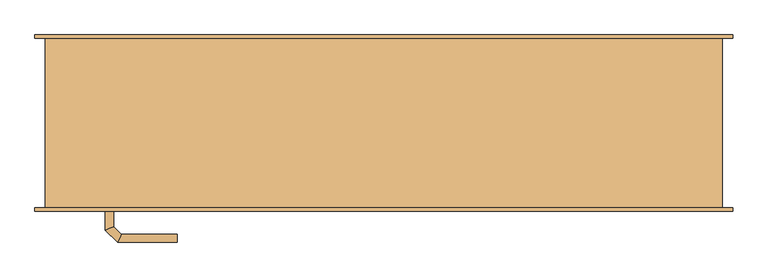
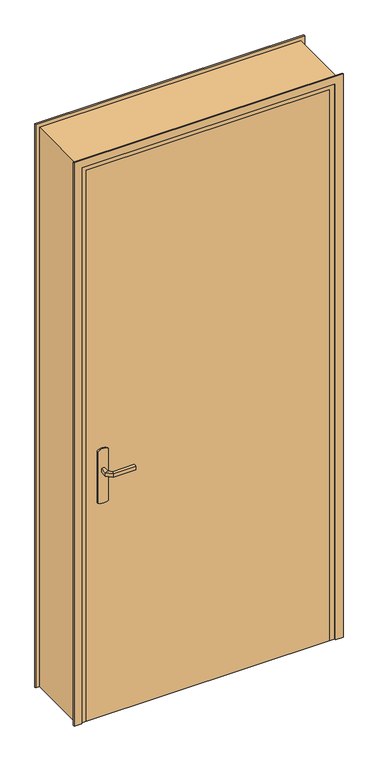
"""IFC4 building model written with IfcOpenShell, lengths in millimetres: door geometry, @_Int. Simple : @_PP (0.93m x 2.25)."""

from ifc_helpers import new_model, si_unit, point, frame, frame_2d, origin, origin_with_axes, place, context, project, spatial, polyline, circle_curve, ellipse_curve, trimmed, segment, composite_curve, outline, extrude, faceted_brep, source, transform, mapped, element, save
from ifc_brep_helpers import plane_surface, cylinder_surface, advanced_brep


def door_8299daf2(model_context):
    return source(origin(), model_context, "Body", "SolidModel", [
        extrude(outline(composite_curve([segment(trimmed(circle_curve(frame_2d((904.6410162, -440.0)), 40.0), [point((870.0, -460.0))], [point((870.0, -420.0))], False, "CARTESIAN"), True, "CONTINUOUS"), segment(polyline([(870.0, -420.0), (1080.0, -420.0)]), True, "CONTINUOUS"), segment(trimmed(circle_curve(frame_2d((1045.3589838, -440.0)), 40.0), [point((1080.0, -420.0))], [point((1080.0, -460.0))], False, "CARTESIAN"), True, "CONTINUOUS"), segment(polyline([(1080.0, -460.0), (870.0, -460.0)]), True, "CONTINUOUS")], self_intersect=False)), frame((0.0, -130.0, 0.0), z_axis=(0.0, 1.0, 0.0), x_axis=(0.0, 0.0, 1.0)), (0.0, 0.0, 1.0), 5.0),
        extrude(outline(composite_curve([segment(trimmed(circle_curve(frame_2d((1045.3589838, -440.0)), 40.0), [point((1080.0, -420.0))], [point((1080.0, -460.0))], False, "CARTESIAN"), True, "CONTINUOUS"), segment(polyline([(1080.0, -460.0), (870.0, -460.0)]), True, "CONTINUOUS"), segment(trimmed(circle_curve(frame_2d((904.6410162, -440.0)), 40.0), [point((870.0, -460.0))], [point((870.0, -420.0))], False, "CARTESIAN"), True, "CONTINUOUS"), segment(polyline([(870.0, -420.0), (1080.0, -420.0)]), True, "CONTINUOUS")], self_intersect=False)), frame((0.0, -85.0, 0.0), z_axis=(0.0, 1.0, 0.0), x_axis=(0.0, 0.0, 1.0)), (0.0, 0.0, 1.0), 5.0),
        advanced_brep(
        [(-446.0, -130.0, 1007.0), (-434.0, -130.0, 1007.0), (-434.0, -130.0, 993.0), (-446.0, -130.0, 993.0), (-446.0, -157.6509507, 1007.0), (-434.0, -152.680388, 1007.0), (-434.0, -152.680388, 993.0), (-446.0, -157.6509507, 993.0), (-427.62279, -176.0281607, 1007.0), (-422.6522273, -164.0281607, 1007.0), (-422.6522273, -164.0281607, 993.0), (-427.62279, -176.0281607, 993.0), (-339.9813594, -176.0281607, 1007.0), (-339.9813594, -176.0281607, 993.0), (-339.9813594, -164.0281607, 993.0), (-339.9813594, -164.0281607, 1007.0)],
        [
            (0, 1, circle_curve(frame((-440.0, -130.0, 986.9542278), z_axis=(0.0, 1.0, 0.0), x_axis=(1.0, 0.0, 0.0)), 20.9244589)),
            (1, 2),
            (2, 3, circle_curve(frame((-440.0, -130.0, 1013.0457722), z_axis=(0.0, 1.0, 0.0), x_axis=(1.0, 0.0, 0.0)), 20.9244589)),
            (3, 0),
            (0, 4),
            (4, 5, ellipse_curve(frame((-440.0, -155.1656693, 986.9542278), z_axis=(-0.3826834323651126, 0.9238795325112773, 0.0), x_axis=(0.9238795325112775, 0.38268343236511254, 0.0)), 22.6484711, 20.9244589)),
            (5, 1),
            (5, 6),
            (6, 2),
            (6, 7, ellipse_curve(frame((-440.0, -155.1656693, 1013.0457722), z_axis=(-0.3826834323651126, 0.9238795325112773, 0.0), x_axis=(0.9238795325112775, 0.38268343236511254, 0.0)), 22.6484711, 20.9244589)),
            (7, 3),
            (7, 4),
            (4, 8),
            (8, 9, ellipse_curve(frame((-425.1375086, -170.0281607, 986.9542278), z_axis=(-0.9238795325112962, 0.38268343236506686, 0.0), x_axis=(0.3826834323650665, 0.9238795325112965, 0.0)), 22.6484711, 20.9244589)),
            (9, 5),
            (9, 10),
            (10, 6),
            (10, 11, ellipse_curve(frame((-425.1375086, -170.0281607, 1013.0457722), z_axis=(-0.9238795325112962, 0.38268343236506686, 0.0), x_axis=(0.3826834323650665, 0.9238795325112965, 0.0)), 22.6484711, 20.9244589)),
            (11, 7),
            (11, 8),
            (12, 13),
            (13, 14, circle_curve(frame((-339.9813594, -170.0281607, 1013.0457722), z_axis=(1.0, 0.0, 0.0), x_axis=(0.0, 1.0, 0.0)), 20.9244589)),
            (14, 15),
            (15, 12, circle_curve(frame((-339.9813594, -170.0281607, 986.9542278), z_axis=(1.0, 0.0, 0.0), x_axis=(0.0, 1.0, 0.0)), 20.9244589)),
            (8, 12),
            (15, 9),
            (14, 10),
            (13, 11),
        ],
        [
            plane_surface(frame((-449.2195445, -130.0, 1000.0), z_axis=(0.0, 1.0, 0.0), x_axis=(0.0, 0.0, -1.0))),
            cylinder_surface(frame((-440.0, -130.0, 986.9542278), z_axis=(0.0, 1.0, 0.0), x_axis=(1.0, 0.0, 0.0)), 20.9244589),
            plane_surface(frame((-434.0, -130.0, 1007.0), z_axis=(1.0, 0.0, 0.0), x_axis=(0.0, -1.0, 0.0))),
            cylinder_surface(frame((-440.0, -130.0, 1013.0457722), z_axis=(0.0, 1.0, 0.0), x_axis=(1.0, 0.0, 0.0)), 20.9244589),
            plane_surface(frame((-446.0, -130.0, 993.0), z_axis=(-1.0, 0.0, 0.0), x_axis=(0.0, -1.0, 0.0))),
            cylinder_surface(frame((-440.0, -155.1656693, 986.9542278), z_axis=(-0.7071067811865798, 0.7071067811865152, 0.0), x_axis=(0.7071067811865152, 0.7071067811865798, 0.0)), 20.9244589),
            plane_surface(frame((-434.0, -152.680388, 1007.0), z_axis=(0.7071067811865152, 0.7071067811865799, 0.0), x_axis=(0.7071067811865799, -0.7071067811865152, 0.0))),
            cylinder_surface(frame((-440.0, -155.1656693, 1013.0457722), z_axis=(-0.7071067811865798, 0.7071067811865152, 0.0), x_axis=(0.7071067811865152, 0.7071067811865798, 0.0)), 20.9244589),
            plane_surface(frame((-446.0, -157.6509507, 993.0), z_axis=(-0.7071067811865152, -0.7071067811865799, 0.0), x_axis=(0.7071067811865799, -0.7071067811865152, 0.0))),
            plane_surface(frame((-339.9813594, -170.0281607, 990.7804555), z_axis=(1.0, 0.0, 0.0), x_axis=(0.0, 1.0, 0.0))),
            cylinder_surface(frame((-425.1375086, -170.0281607, 986.9542278), z_axis=(-1.0, 0.0, 0.0), x_axis=(0.0, 1.0, 0.0)), 20.9244589),
            plane_surface(frame((-422.6522273, -164.0281607, 1007.0), z_axis=(0.0, 1.0, 0.0), x_axis=(1.0, 0.0, 0.0))),
            cylinder_surface(frame((-425.1375086, -170.0281607, 1013.0457722), z_axis=(-1.0, 0.0, 0.0), x_axis=(0.0, 1.0, 0.0)), 20.9244589),
            plane_surface(frame((-427.62279, -176.0281607, 993.0), z_axis=(0.0, -1.0, 0.0), x_axis=(1.0, 0.0, 0.0))),
        ],
        [
            (0, [[1, 2, 3, 4]]),
            (1, [[-1, 5, 6, 7]]),
            (2, [[-2, -7, 8, 9]]),
            (3, [[-3, -9, 10, 11]]),
            (4, [[-4, -11, 12, -5]]),
            (5, [[-6, 13, 14, 15]]),
            (6, [[-8, -15, 16, 17]]),
            (7, [[-10, -17, 18, 19]]),
            (8, [[-12, -19, 20, -13]]),
            (9, [[21, 22, 23, 24]]),
            (10, [[-14, 25, -24, 26]]),
            (11, [[-16, -26, -23, 27]]),
            (12, [[-18, -27, -22, 28]]),
            (13, [[-20, -28, -21, -25]]),
        ],
    ),
        advanced_brep(
        [(-434.0, -80.0, 993.0), (-434.0, -80.0, 1007.0), (-446.0, -80.0, 1007.0), (-446.0, -80.0, 993.0), (-434.0, -57.5147955, 993.0), (-434.0, -57.5147955, 1007.0), (-446.0, -52.5442327, 1007.0), (-446.0, -52.5442327, 993.0), (-422.5147186, -46.0295141, 993.0), (-422.5147186, -46.0295141, 1007.0), (-427.4852814, -34.0295141, 1007.0), (-427.4852814, -34.0295141, 993.0), (-339.9542163, -46.0295141, 993.0), (-339.9542163, -34.0295141, 993.0), (-339.9542163, -34.0295141, 1007.0), (-339.9542163, -46.0295141, 1007.0)],
        [
            (0, 1),
            (1, 2, circle_curve(frame((-440.0, -80.0, 986.9542278), z_axis=(0.0, -1.0, 0.0), x_axis=(-1.0, 0.0, 0.0)), 20.9244589)),
            (2, 3),
            (3, 0, circle_curve(frame((-440.0, -80.0, 1013.0457722), z_axis=(0.0, -1.0, 0.0), x_axis=(-1.0, 0.0, 0.0)), 20.9244589)),
            (0, 4),
            (4, 5),
            (5, 1),
            (5, 6, ellipse_curve(frame((-440.0, -55.0295141, 986.9542278), z_axis=(-0.3826834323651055, -0.9238795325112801, 0.0), x_axis=(0.9238795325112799, -0.3826834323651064, 0.0)), 22.6484711, 20.9244589)),
            (6, 2),
            (6, 7),
            (7, 3),
            (7, 4, ellipse_curve(frame((-440.0, -55.0295141, 1013.0457722), z_axis=(-0.3826834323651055, -0.9238795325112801, 0.0), x_axis=(0.9238795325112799, -0.3826834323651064, 0.0)), 22.6484711, 20.9244589)),
            (4, 8),
            (8, 9),
            (9, 5),
            (9, 10, ellipse_curve(frame((-425.0, -40.0295141, 986.9542278), z_axis=(-0.9238795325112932, -0.382683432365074, 0.0), x_axis=(0.3826834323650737, -0.9238795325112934, 0.0)), 22.6484711, 20.9244589)),
            (10, 6),
            (10, 11),
            (11, 7),
            (11, 8, ellipse_curve(frame((-425.0, -40.0295141, 1013.0457722), z_axis=(-0.9238795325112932, -0.382683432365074, 0.0), x_axis=(0.3826834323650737, -0.9238795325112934, 0.0)), 22.6484711, 20.9244589)),
            (12, 13, circle_curve(frame((-339.9542163, -40.0295141, 1013.0457722), z_axis=(1.0, 0.0, 0.0), x_axis=(0.0, 1.0, 0.0)), 20.9244589)),
            (13, 14),
            (14, 15, circle_curve(frame((-339.9542163, -40.0295141, 986.9542278), z_axis=(1.0, 0.0, 0.0), x_axis=(0.0, 1.0, 0.0)), 20.9244589)),
            (15, 12),
            (8, 12),
            (15, 9),
            (14, 10),
            (13, 11),
        ],
        [
            plane_surface(frame((-449.2195445, -80.0, 1000.0), z_axis=(0.0, -1.0, 0.0), x_axis=(0.0, 0.0, 1.0))),
            plane_surface(frame((-434.0, -80.0, 993.0), z_axis=(1.0, 0.0, 0.0), x_axis=(0.0, 1.0, 0.0))),
            cylinder_surface(frame((-440.0, -80.0, 986.9542278), z_axis=(0.0, -1.0, 0.0), x_axis=(-1.0, 0.0, 0.0)), 20.9244589),
            plane_surface(frame((-446.0, -80.0, 1007.0), z_axis=(-1.0, 0.0, 0.0), x_axis=(0.0, 1.0, 0.0))),
            cylinder_surface(frame((-440.0, -80.0, 1013.0457722), z_axis=(0.0, -1.0, 0.0), x_axis=(-1.0, 0.0, 0.0)), 20.9244589),
            plane_surface(frame((-434.0, -57.5147955, 993.0), z_axis=(0.7071067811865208, -0.7071067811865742, 0.0), x_axis=(0.7071067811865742, 0.7071067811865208, 0.0))),
            cylinder_surface(frame((-440.0, -55.0295141, 986.9542278), z_axis=(-0.7071067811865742, -0.7071067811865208, 0.0), x_axis=(-0.7071067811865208, 0.7071067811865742, 0.0)), 20.9244589),
            plane_surface(frame((-446.0, -52.5442327, 1007.0), z_axis=(-0.7071067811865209, 0.7071067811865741, 0.0), x_axis=(0.7071067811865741, 0.7071067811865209, 0.0))),
            cylinder_surface(frame((-440.0, -55.0295141, 1013.0457722), z_axis=(-0.7071067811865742, -0.7071067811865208, 0.0), x_axis=(-0.7071067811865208, 0.7071067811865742, 0.0)), 20.9244589),
            plane_surface(frame((-339.9542163, -40.0295141, 990.7804555), z_axis=(1.0, 0.0, 0.0), x_axis=(0.0, 1.0, 0.0))),
            plane_surface(frame((-422.5147186, -46.0295141, 993.0), z_axis=(0.0, -1.0, 0.0), x_axis=(1.0, 0.0, 0.0))),
            cylinder_surface(frame((-425.0, -40.0295141, 986.9542278), z_axis=(-1.0, 0.0, 0.0), x_axis=(0.0, 1.0, 0.0)), 20.9244589),
            plane_surface(frame((-427.4852814, -34.0295141, 1007.0), z_axis=(0.0, 1.0, 0.0), x_axis=(1.0, 0.0, 0.0))),
            cylinder_surface(frame((-425.0, -40.0295141, 1013.0457722), z_axis=(-1.0, 0.0, 0.0), x_axis=(0.0, 1.0, 0.0)), 20.9244589),
        ],
        [
            (0, [[1, 2, 3, 4]]),
            (1, [[-1, 5, 6, 7]]),
            (2, [[-2, -7, 8, 9]]),
            (3, [[-3, -9, 10, 11]]),
            (4, [[-4, -11, 12, -5]]),
            (5, [[-6, 13, 14, 15]]),
            (6, [[-8, -15, 16, 17]]),
            (7, [[-10, -17, 18, 19]]),
            (8, [[-12, -19, 20, -13]]),
            (9, [[21, 22, 23, 24]]),
            (10, [[-14, 25, -24, 26]]),
            (11, [[-16, -26, -23, 27]]),
            (12, [[-18, -27, -22, 28]]),
            (13, [[-20, -28, -21, -25]]),
        ],
    ),
        extrude(outline(polyline([(-500.0, -85.0), (430.0, -85.0), (430.0, -125.0), (-500.0, -125.0), (-500.0, -85.0)])), origin_with_axes(), (0.0, 0.0, 1.0), 2230.0),
        faceted_brep([(-535.0, -125.0, 0.0), (-535.0, 125.0, 0.0), (-485.0, 125.0, 0.0), (-485.0, -85.0, 0.0), (-500.0, -85.0, 0.0), (-500.0, -125.0, 0.0), (-535.0, -125.0, 2265.0), (-535.0, 125.0, 2265.0), (465.0, 125.0, 2265.0), (465.0, 125.0, 0.0), (415.0, 125.0, 0.0), (415.0, 125.0, 2215.0), (-485.0, 125.0, 2215.0), (-485.0, -85.0, 2215.0), (415.0, -85.0, 2215.0), (415.0, -85.0, 0.0), (430.0, -85.0, 0.0), (430.0, -85.0, 2230.0), (-500.0, -85.0, 2230.0), (-500.0, -125.0, 2230.0), (430.0, -125.0, 2230.0), (430.0, -125.0, 0.0), (465.0, -125.0, 0.0), (465.0, -125.0, 2265.0)], [[[0, 1, 2, 3, 4, 5]], [[1, 0, 6, 7]], [[2, 1, 7, 8, 9, 10, 11, 12]], [[3, 2, 12, 13]], [[4, 3, 13, 14, 15, 16, 17, 18]], [[5, 4, 18, 19]], [[0, 5, 19, 20, 21, 22, 23, 6]], [[8, 23, 22, 9]], [[22, 21, 16, 15, 10, 9]], [[14, 11, 10, 15]], [[20, 17, 16, 21]], [[7, 6, 23, 8]], [[13, 12, 11, 14]], [[19, 18, 17, 20]]]),
        extrude(outline(polyline([(0.0, -550.0), (0.0, -520.0), (2250.0, -520.0), (2250.0, 450.0), (0.0, 450.0), (0.0, 480.0), (2280.0, 480.0), (2280.0, -550.0), (0.0, -550.0)])), frame((0.0, -130.0, 0.0), z_axis=(0.0, 1.0, 0.0), x_axis=(0.0, 0.0, 1.0)), (0.0, 0.0, 1.0), 5.0),
        extrude(outline(polyline([(0.0, -550.0), (0.0, -520.0), (2250.0, -520.0), (2250.0, 450.0), (0.0, 450.0), (0.0, 480.0), (2280.0, 480.0), (2280.0, -550.0), (0.0, -550.0)])), frame((0.0, 125.0, 0.0), z_axis=(0.0, 1.0, 0.0), x_axis=(0.0, 0.0, 1.0)), (0.0, 0.0, 1.0), 5.0),
    ])


if __name__ == "__main__":
    model = new_model("IFC4")
    model_context = context("Model", 3, world=origin())
    ifc_project = project(units=[si_unit("LENGTHUNIT", "METRE", prefix="MILLI")], contexts=[model_context])
    site = spatial("IfcSite", under=ifc_project)
    building = spatial("IfcBuilding", under=site)
    placement = place(None, origin())
    door_shape = door_8299daf2(model_context)
    element("IfcDoor", 1, ObjectType="@_Int. Simple : @_PP (0.93m x 2.25)", at=placement, inside=building, context=model_context, shape_type="MappedRepresentation", body=[
        mapped(door_shape, transform((0.0, 0.0, 0.0), x_axis=(1.0, 0.0, 0.0), y_axis=(0.0, 1.0, 0.0), z_axis=(0.0, 0.0, 1.0))),
    ])
    save(model, "model.ifc")
